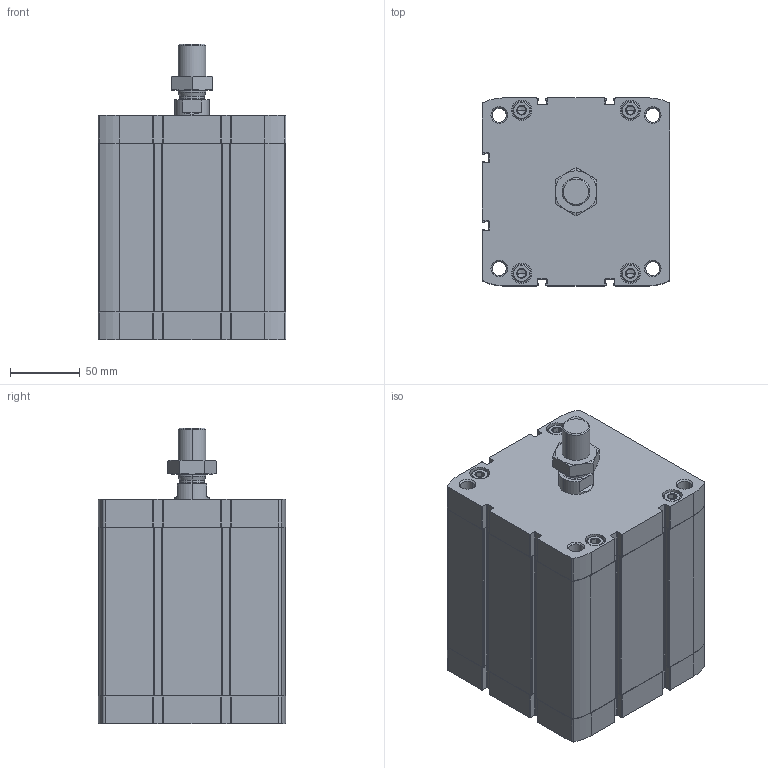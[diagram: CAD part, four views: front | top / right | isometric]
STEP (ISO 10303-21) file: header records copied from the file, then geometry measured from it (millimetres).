
FILE_DESCRIPTION (( 'STEP AP203' ), '1' );
FILE_NAME ('CCN125-80M.STEP', '2020-06-05T19:23:39', ( '' ), ( '' ), 'SwSTEP 2.0', 'SolidWorks 2019', '' );
FILE_SCHEMA (( 'CONFIG_CONTROL_DESIGN' ));
Length unit declared in the file: millimetre
Products named in the file (1): CCN125-80M
Bounding box: 134.6 x 134.6 x 212 mm (x, y, z)
Volume: 1867247.6 mm3; surface area: 280510.8 mm2
Topology: 3 solids, 3 shells, 555 faces, 1412 edges, 886 vertices
Faces by surface type: plane 275, cylinder 196, cone 80, torus 4
Entity records: 18163 total; most frequent: CARTESIAN_POINT 4452, DIRECTION 2966, ORIENTED_EDGE 2792, EDGE_CURVE 1396, AXIS2_PLACEMENT_3D 1092, VERTEX_POINT 886, LINE 782, VECTOR 782
